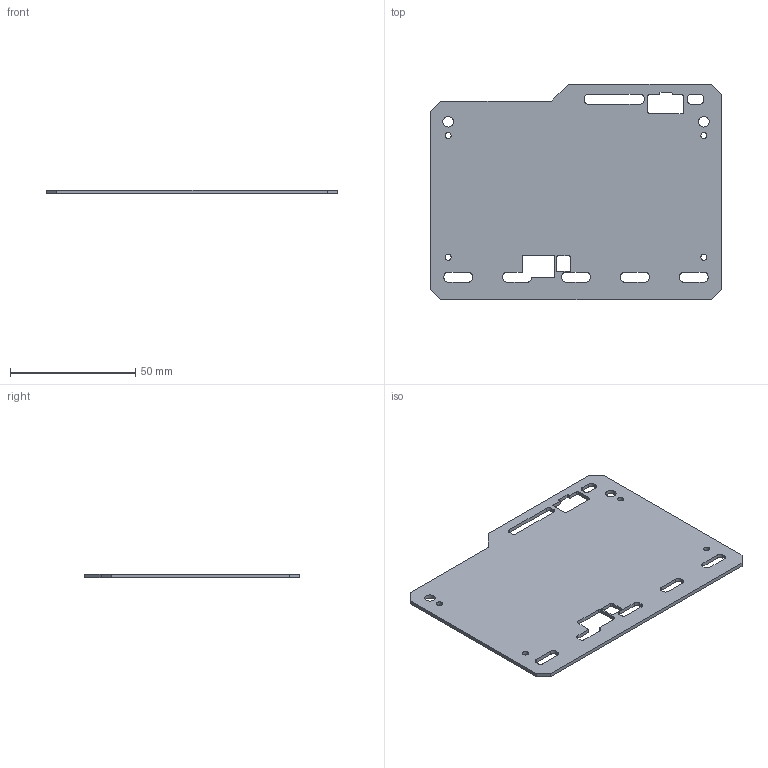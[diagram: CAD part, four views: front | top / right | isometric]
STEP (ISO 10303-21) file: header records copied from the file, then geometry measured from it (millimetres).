
FILE_DESCRIPTION(('Open CASCADE Model'),'2;1');
FILE_NAME('Clear front plate','2026-11-11T18:27:43',('Author'),( 'Open CASCADE'),'Open CASCADE STEP processor 7.8','build123d', 'Unknown');
FILE_SCHEMA(('AUTOMOTIVE_DESIGN { 1 0 10303 214 1 1 1 1 }'));
Length unit declared in the file: millimetre
Products named in the file (1): Clear front plate
Bounding box: 116 x 86 x 1.5 mm (x, y, z)
Volume: 13456.6 mm3; surface area: 19076.1 mm2
Topology: 1 solids, 1 shells, 102 faces, 300 edges, 200 vertices
Faces by surface type: plane 56, cylinder 46
Full cylindrical faces by diameter (mm): 2.4 x4, 4.2 x2
Entity records: 7457 total; most frequent: CARTESIAN_POINT 1863, DIRECTION 938, ORIENTED_EDGE 600, PCURVE 600, DEFINITIONAL_REPRESENTATION 600, LINE 536, VECTOR 536, EDGE_CURVE 300
